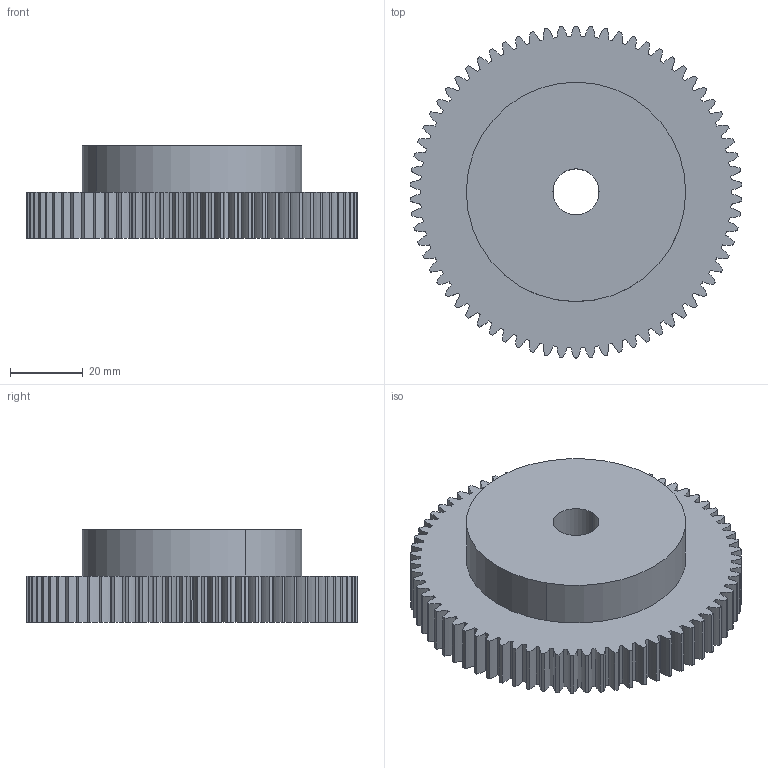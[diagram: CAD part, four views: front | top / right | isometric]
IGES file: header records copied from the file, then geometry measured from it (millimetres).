
Global section: file name: C:\Documents and Settings\Administrator\Desktop\Transfer Temp\gss-2070.igs; native system: AutoDesk Inventor R2.0 ; preprocessor: AutoDesk Inventor Iges Exporter R2.0; author: No Author specified; organization: No Organization specified; date: 20011229.163855; units: inch
Bounding box: 91.38 x 91.44 x 25.4 mm (x, y, z)
Surface area: 22623 mm2 (no closed solid volume)
Topology: 0 solids, 0 shells, 289 faces, 1716 edges, 1716 vertices
Faces by surface type: revolution 284, bspline 5
